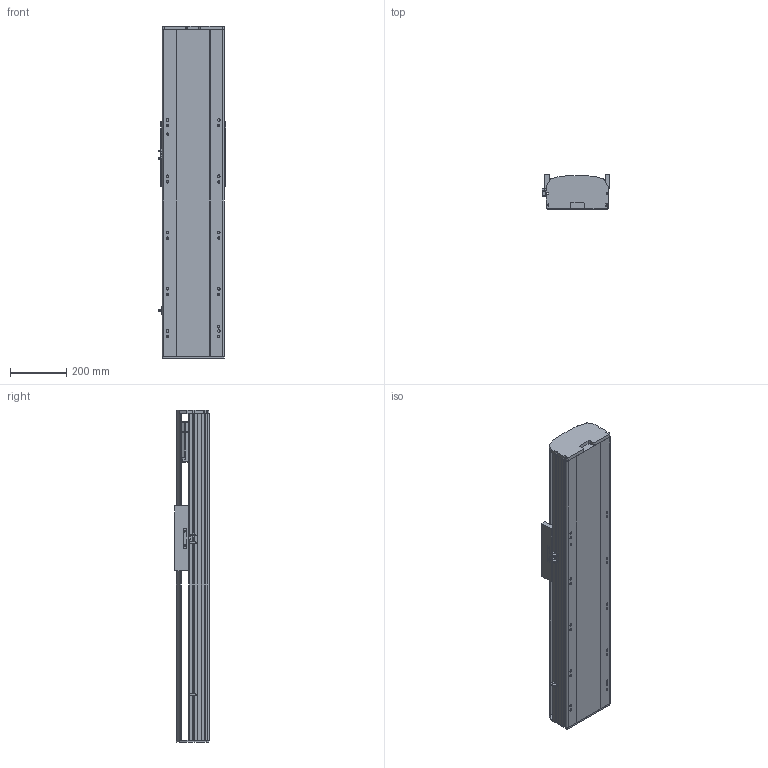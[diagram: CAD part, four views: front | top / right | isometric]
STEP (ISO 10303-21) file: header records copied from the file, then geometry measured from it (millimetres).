
FILE_DESCRIPTION (( 'STEP AP214' ), '1' );
FILE_NAME ('RTH22-XX-550-B-M75B-C4.STEP', '2025-10-24T10:08:36', ( 'Microsoft' ), ( 'Microsoft' ), 'SwSTEP 2.0', 'SolidWorks 2018', '' );
FILE_SCHEMA (( 'AUTOMOTIVE_DESIGN' ));
Length unit declared in the file: millimetre
Products named in the file (9): N_RTH22-E-004-SFS25賑釱^RTH22-XX-XX-B-M75B-C4; N_RTH22-B-011B菁釱^RTH22-XX-XX-B-M75B-C4; N_RTH22-B008萇儂啣^RTH22-XX-XX-B-M75B-C4; N_RTH22-B-007B奻裔^RTH22-XX-XX-B-M75B-C4; N_RTH22-GY-013外置感应片^RTH22-XX-XX-B-M75B-C4; RTH22-XX-550-B-M75B-C4; N_750W萇儂^RTH22-XX-XX-B-M75B-C4; N_OMRON EE-SX672 传感器^RTH22-XX-XX-B-M75B-C4; N_RTH22-GY-001耜裔^RTH22-XX-XX-B-M75B-C4
Assembly tree (10 placements, depth 2):
  RTH22-XX-550-B-M75B-C4
    N_RTH22-B-011B菁釱^RTH22-XX-XX-B-M75B-C4
    N_RTH22-GY-001耜裔^RTH22-XX-XX-B-M75B-C4
    N_750W萇儂^RTH22-XX-XX-B-M75B-C4
    N_RTH22-B008萇儂啣^RTH22-XX-XX-B-M75B-C4
    N_RTH22-B-007B奻裔^RTH22-XX-XX-B-M75B-C4
    N_OMRON EE-SX672 传感器^RTH22-XX-XX-B-M75B-C4  x3
    N_RTH22-GY-013外置感应片^RTH22-XX-XX-B-M75B-C4
    N_RTH22-E-004-SFS25賑釱^RTH22-XX-XX-B-M75B-C4
Bounding box: 238.5 x 122 x 1180 mm (x, y, z)
Volume: 16697968.6 mm3; surface area: 1738052 mm2
Topology: 10 solids, 10 shells, 1497 faces, 4100 edges, 2653 vertices
Faces by surface type: plane 750, cylinder 418, bspline 279, cone 50
Entity records: 36775 total; most frequent: CARTESIAN_POINT 11549, ORIENTED_EDGE 5192, DIRECTION 4834, EDGE_CURVE 2596, VERTEX_POINT 1689, VECTOR 1614, LINE 1614, AXIS2_PLACEMENT_3D 1610
